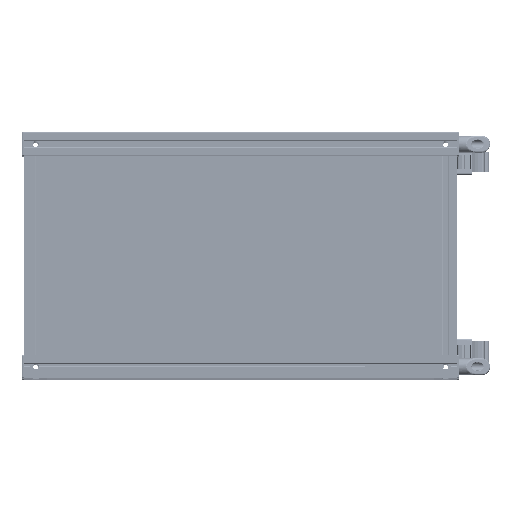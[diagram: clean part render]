
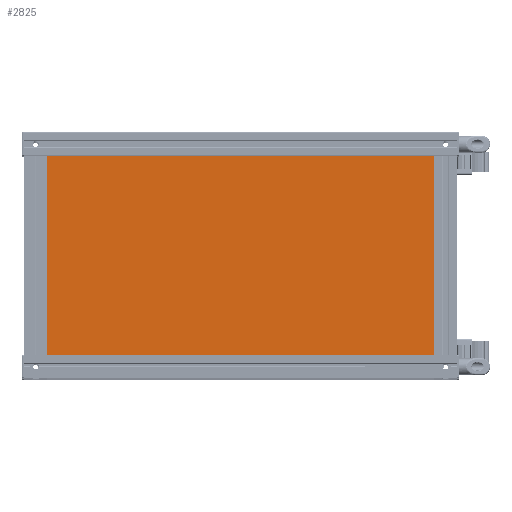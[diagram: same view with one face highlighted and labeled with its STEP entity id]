
A CAD part, top view. The second image highlights one B-rep face of the part: STEP entity #2825.
In plain terms, the highlighted planar face has unit normal (0, 0, 1).
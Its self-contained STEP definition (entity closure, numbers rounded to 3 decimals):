
#2825=ADVANCED_FACE('',(#59189),#59191,.T.);
#59189=FACE_BOUND('',#59190,.T.);
#59190=EDGE_LOOP('',(#108002,#108003,#108004,#108005));
#59191=PLANE('',#59192);
#59192=AXIS2_PLACEMENT_3D('',#59193,#59194,#59195);
#59193=CARTESIAN_POINT('',(0.,0.,5.));
#59194=DIRECTION('',(0.,0.,1.));
#59195=DIRECTION('',(0.,-1.,0.));
#108002=ORIENTED_EDGE('',*,*,#146969,.T.);
#108003=ORIENTED_EDGE('',*,*,#146973,.T.);
#108004=ORIENTED_EDGE('',*,*,#146976,.T.);
#108005=ORIENTED_EDGE('',*,*,#146978,.T.);
#146969=EDGE_CURVE('',#166423,#166421,#166424,.T.);
#146973=EDGE_CURVE('',#166421,#166428,#166430,.T.);
#146976=EDGE_CURVE('',#166428,#166433,#166435,.T.);
#146978=EDGE_CURVE('',#166433,#166423,#166437,.T.);
#166421=VERTEX_POINT('',#198949);
#166423=VERTEX_POINT('',#198953);
#166424=LINE('',#198954,#198955);
#166428=VERTEX_POINT('',#198964);
#166430=LINE('',#198968,#198969);
#166433=VERTEX_POINT('',#198975);
#166435=LINE('',#198979,#198980);
#166437=LINE('',#198985,#198986);
#198949=CARTESIAN_POINT('',(-30.,-30.,5.));
#198953=CARTESIAN_POINT('',(-30.,-390.,5.));
#198954=CARTESIAN_POINT('',(-30.,-390.,5.));
#198955=VECTOR('',#198956,1.);
#198956=DIRECTION('',(0.,1.,0.));
#198964=CARTESIAN_POINT('',(-710.,-30.,5.));
#198968=CARTESIAN_POINT('',(-30.,-30.,5.));
#198969=VECTOR('',#198970,1.);
#198970=DIRECTION('',(-1.,0.,0.));
#198975=CARTESIAN_POINT('',(-710.,-390.,5.));
#198979=CARTESIAN_POINT('',(-710.,-30.,5.));
#198980=VECTOR('',#198981,1.);
#198981=DIRECTION('',(0.,-1.,0.));
#198985=CARTESIAN_POINT('',(-710.,-390.,5.));
#198986=VECTOR('',#198987,1.);
#198987=DIRECTION('',(1.,0.,0.));
